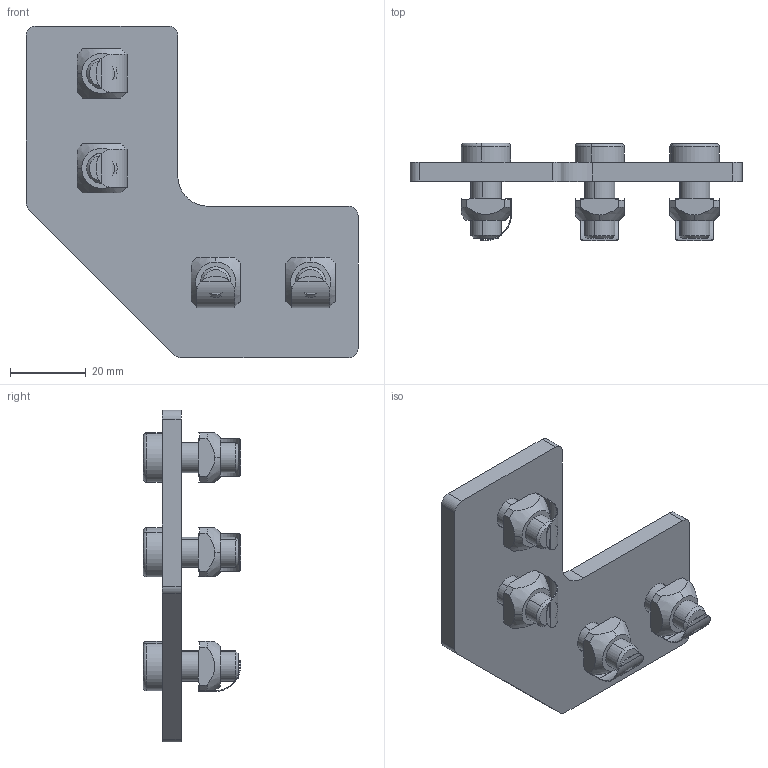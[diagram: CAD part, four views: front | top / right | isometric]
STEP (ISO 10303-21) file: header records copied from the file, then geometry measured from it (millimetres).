
FILE_DESCRIPTION (( 'STEP AP214' ), '1' );
FILE_NAME ('1.3060 Kulmalevy.STEP', '2025-09-08T09:03:30', ( '' ), ( '' ), 'SwSTEP 2.0', 'SolidWorks 2025', '' );
FILE_SCHEMA (( 'AUTOMOTIVE_DESIGN' ));
Length unit declared in the file: millimetre
Products named in the file (1): 1.3060 Kulmalevy
Bounding box: 87.5 x 25.65 x 87.5 mm (x, y, z)
Surface area: 16796.4 mm2 (no closed solid volume)
Topology: 0 solids, 13 shells, 185 faces, 523 edges, 352 vertices
Faces by surface type: plane 108, cylinder 47, cone 22, torus 8
Entity records: 8360 total; most frequent: CARTESIAN_POINT 1613, DIRECTION 966, ORIENTED_EDGE 911, EDGE_CURVE 523, VERTEX_POINT 352, AXIS2_PLACEMENT_3D 329, LINE 308, VECTOR 308
